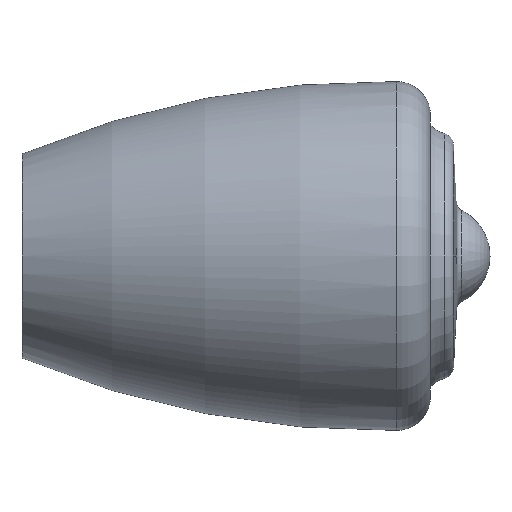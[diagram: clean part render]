
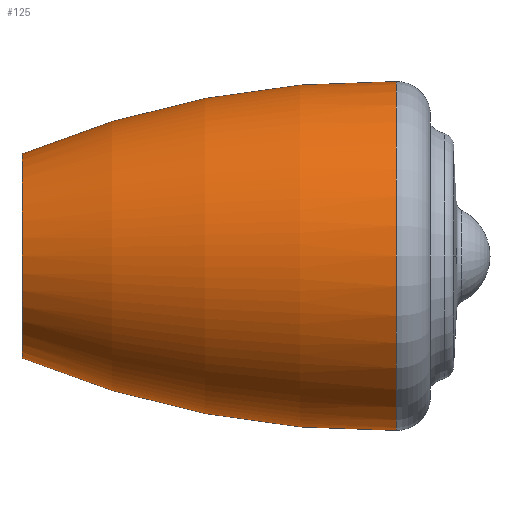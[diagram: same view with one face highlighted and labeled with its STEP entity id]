
A CAD part, left-side view. The second image highlights one B-rep face of the part: STEP entity #125.
In plain terms, the highlighted toroidal (fillet/blend) face has major radius 44.55 mm and minor radius 54.807 mm.
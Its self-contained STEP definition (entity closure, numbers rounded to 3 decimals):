
#123 = EDGE_CURVE( '', #191, #225, #330, .T. );
#125 = ADVANCED_FACE( '', ( #332 ), #333, .T. );
#149 = EDGE_CURVE( '', #165, #177, #358, .T. );
#165 = VERTEX_POINT( '', #375 );
#169 = EDGE_CURVE( '', #215, #225, #379, .T. );
#177 = VERTEX_POINT( '', #388 );
#179 = EDGE_CURVE( '', #303, #215, #390, .T. );
#191 = VERTEX_POINT( '', #402 );
#215 = VERTEX_POINT( '', #432 );
#225 = VERTEX_POINT( '', #442 );
#237 = EDGE_CURVE( '', #165, #191, #454, .T. );
#295 = EDGE_CURVE( '', #177, #303, #521, .T. );
#303 = VERTEX_POINT( '', #529 );
#330 = CIRCLE( '', #549, 10.25 );
#332 = FACE_OUTER_BOUND( '', #551, .T. );
#333 = TOROIDAL_SURFACE( '', #552, -44.55, 54.807 );
#358 = CIRCLE( '', #584, 54.807 );
#375 = CARTESIAN_POINT( '', ( 0., -22., 10.25 ) );
#379 = CIRCLE( '', #610, 54.807 );
#388 = CARTESIAN_POINT( '', ( 0., 0., 6. ) );
#390 = CIRCLE( '', #624, 6. );
#402 = CARTESIAN_POINT( '', ( -10.25, -22., 0. ) );
#432 = CARTESIAN_POINT( '', ( 0., 0., -6. ) );
#442 = CARTESIAN_POINT( '', ( 0., -22., -10.25 ) );
#454 = CIRCLE( '', #699, 10.25 );
#521 = CIRCLE( '', #782, 6. );
#529 = CARTESIAN_POINT( '', ( -6., 0., 0. ) );
#549 = AXIS2_PLACEMENT_3D( '', #812, #813, #814 );
#551 = EDGE_LOOP( '', ( #816, #817, #818, #819, #820, #821 ) );
#552 = AXIS2_PLACEMENT_3D( '', #822, #823, #824 );
#584 = AXIS2_PLACEMENT_3D( '', #847, #848, #849 );
#610 = AXIS2_PLACEMENT_3D( '', #872, #873, #874 );
#624 = AXIS2_PLACEMENT_3D( '', #890, #891, #892 );
#699 = AXIS2_PLACEMENT_3D( '', #971, #972, #973 );
#782 = AXIS2_PLACEMENT_3D( '', #1073, #1074, #1075 );
#812 = CARTESIAN_POINT( '', ( 0., -22., 0. ) );
#813 = DIRECTION( '', ( 0., -1., 0. ) );
#814 = DIRECTION( '', ( -1., 0., 0. ) );
#816 = ORIENTED_EDGE( '', *, *, #169, .T. );
#817 = ORIENTED_EDGE( '', *, *, #123, .F. );
#818 = ORIENTED_EDGE( '', *, *, #237, .F. );
#819 = ORIENTED_EDGE( '', *, *, #149, .T. );
#820 = ORIENTED_EDGE( '', *, *, #295, .T. );
#821 = ORIENTED_EDGE( '', *, *, #179, .T. );
#822 = CARTESIAN_POINT( '', ( 0., -21.176, 0. ) );
#823 = DIRECTION( '', ( 0., -1., 0. ) );
#824 = DIRECTION( '', ( 0., 0., -1. ) );
#847 = CARTESIAN_POINT( '', ( 0., -21.176, -44.55 ) );
#848 = DIRECTION( '', ( -1., 0., 0. ) );
#849 = DIRECTION( '', ( 0., 0., 1. ) );
#872 = CARTESIAN_POINT( '', ( 0., -21.176, 44.55 ) );
#873 = DIRECTION( '', ( -1., 0., 0. ) );
#874 = DIRECTION( '', ( 0., 0., -1. ) );
#890 = CARTESIAN_POINT( '', ( 0., 0., 0. ) );
#891 = DIRECTION( '', ( 0., -1., 0. ) );
#892 = DIRECTION( '', ( -1., 0., 0. ) );
#971 = CARTESIAN_POINT( '', ( 0., -22., 0. ) );
#972 = DIRECTION( '', ( 0., -1., 0. ) );
#973 = DIRECTION( '', ( -1., 0., 0. ) );
#1073 = CARTESIAN_POINT( '', ( 0., 0., 0. ) );
#1074 = DIRECTION( '', ( 0., -1., 0. ) );
#1075 = DIRECTION( '', ( -1., 0., 0. ) );
